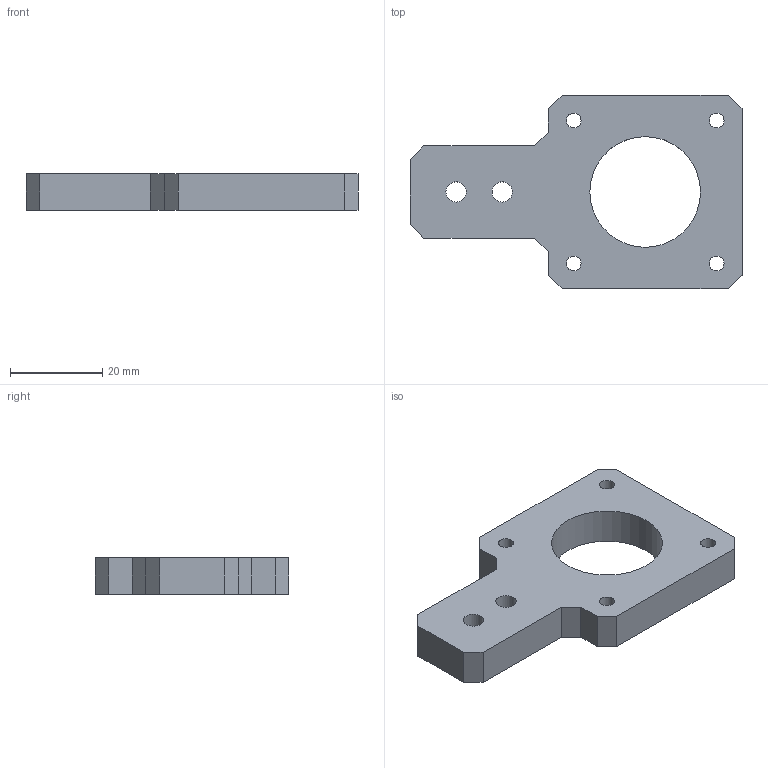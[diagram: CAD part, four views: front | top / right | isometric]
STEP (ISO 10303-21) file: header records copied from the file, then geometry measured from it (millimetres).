
FILE_DESCRIPTION(/* description */ (''),/* implementation_level */ '2;1');
FILE_NAME(/* name */ 'X Motor Plate v3.step',/* time_stamp */ '2025-04-22T12:35:00+05:30',/* author */ (''),/* organization */ (''),/* preprocessor_version */ 'ST-DEVELOPER v20.1',/* originating_system */ 'Autodesk Translation Framework v14.4.0.0',/* authorisation */ '');
FILE_SCHEMA (('AUTOMOTIVE_DESIGN { 1 0 10303 214 3 1 1 }'));
Length unit declared in the file: millimetre
Products named in the file (2): X Motor Plate; Component1
Assembly tree (1 placements, depth 2):
  X Motor Plate
    Component1
Bounding box: 72 x 42 x 8 mm (x, y, z)
Volume: 14648.2 mm3; surface area: 6519.6 mm2
Topology: 1 solids, 1 shells, 25 faces, 69 edges, 46 vertices
Faces by surface type: plane 18, cylinder 7
Full cylindrical faces by diameter (mm): 3.2 x4, 4.4 x2, 24 x1
Entity records: 885 total; most frequent: CARTESIAN_POINT 143, DIRECTION 139, ORIENTED_EDGE 138, EDGE_CURVE 69, LINE 55, VECTOR 55, VERTEX_POINT 46, AXIS2_PLACEMENT_3D 42
